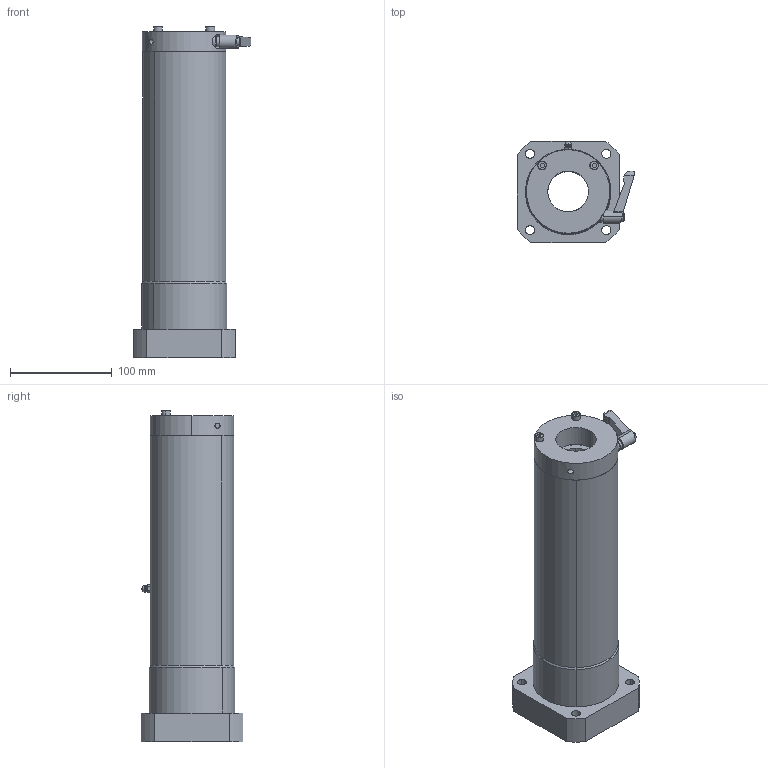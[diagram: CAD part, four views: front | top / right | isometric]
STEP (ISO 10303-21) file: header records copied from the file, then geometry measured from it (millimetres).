
FILE_DESCRIPTION (( 'STEP AP214' ), '1' );
FILE_NAME ('LFWL40B-CS.STEP', '2023-06-27T02:40:30', ( '' ), ( '' ), 'SwSTEP 2.0', 'SolidWorks 2019', '' );
FILE_SCHEMA (( 'AUTOMOTIVE_DESIGN' ));
Length unit declared in the file: millimetre
Products named in the file (3): LFWL40B; “ÁSCK4020SS-S5.5; LFWL40B-CS
Assembly tree (2 placements, depth 2):
  LFWL40B-CS
    LFWL40B
    “ÁSCK4020SS-S5.5
Bounding box: 115.4 x 100 x 325 mm (x, y, z)
Volume: 1404428.7 mm3; surface area: 174607.4 mm2
Topology: 4 solids, 10 shells, 235 faces, 568 edges, 359 vertices
Faces by surface type: cylinder 85, plane 69, bspline 47, cone 22, torus 8, sphere 4
Entity records: 10219 total; most frequent: CARTESIAN_POINT 2278, DIRECTION 1186, ORIENTED_EDGE 1132, EDGE_CURVE 566, AXIS2_PLACEMENT_3D 492, VERTEX_POINT 358, CIRCLE 299, EDGE_LOOP 284
